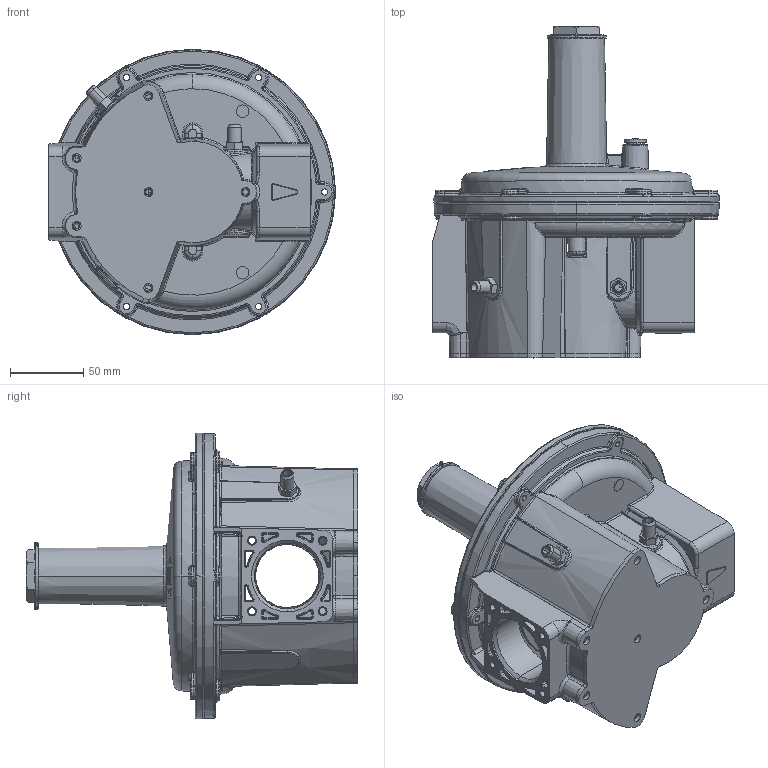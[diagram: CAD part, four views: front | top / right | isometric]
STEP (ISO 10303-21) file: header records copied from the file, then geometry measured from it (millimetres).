
FILE_DESCRIPTION (( 'STEP AP203' ), '1' );
FILE_NAME ('009.0224.101-4.STEP', '2014-01-13T15:52:25', ( 'Adminwatts' ), ( 'Microsoft' ), 'SwSTEP 2.0', 'SolidWorks 2012', '' );
FILE_SCHEMA (( 'CONFIG_CONTROL_DESIGN' ));
Length unit declared in the file: millimetre
Products named in the file (1): 009.0224.101-4
Bounding box: 195.12 x 225.8 x 194.25 mm (x, y, z)
Surface area: 178487.3 mm2 (no closed solid volume)
Topology: 0 solids, 10 shells, 1329 faces, 3853 edges, 2410 vertices
Faces by surface type: plane 294, torus 281, cylinder 260, bspline 242, cone 217, sphere 35
Entity records: 54533 total; most frequent: CARTESIAN_POINT 21945, DIRECTION 6716, ORIENTED_EDGE 6630, EDGE_CURVE 3812, AXIS2_PLACEMENT_3D 2790, VERTEX_POINT 2410, CIRCLE 1702, EDGE_LOOP 1430
